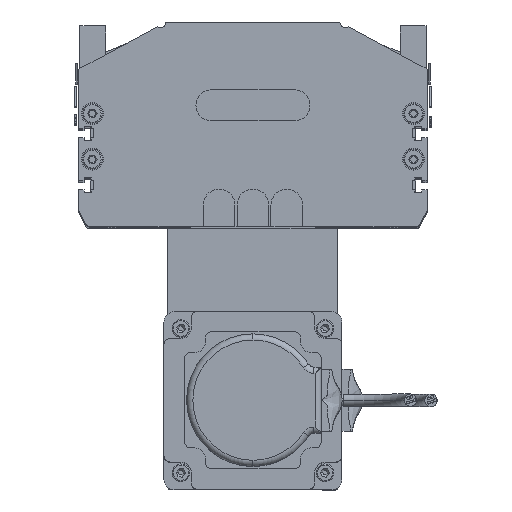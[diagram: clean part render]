
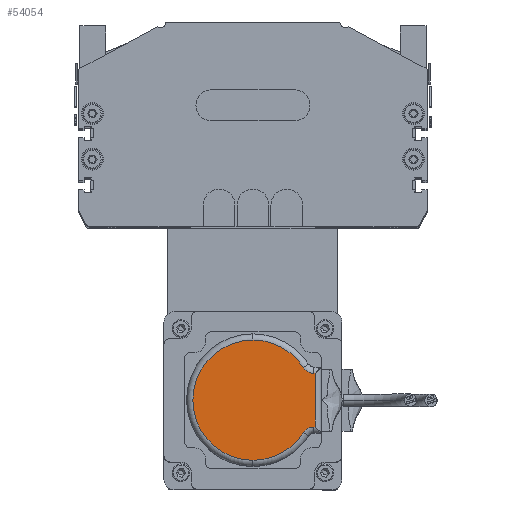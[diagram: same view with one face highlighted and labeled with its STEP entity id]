
A CAD part, top view. The second image highlights one B-rep face of the part: STEP entity #54054.
In plain terms, the highlighted planar face has unit normal (0, 0, 1).
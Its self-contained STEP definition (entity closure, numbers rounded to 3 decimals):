
#35334 = CIRCLE ( 'NONE', #35408, 6. ) ;
#35407 = CARTESIAN_POINT ( 'NONE',  ( 52., 62.394, 26. ) ) ;
#35408 = AXIS2_PLACEMENT_3D ( 'NONE', #35407, #35489, #35503 ) ;
#35489 = DIRECTION ( 'NONE',  ( 0., 0., 1. ) ) ;
#35503 = DIRECTION ( 'NONE',  ( 1., 0., 0. ) ) ;
#35627 = VECTOR ( 'NONE', #35679, 1000. ) ;
#35634 = LINE ( 'NONE', #35680, #35627 ) ;
#35679 = DIRECTION ( 'NONE',  ( 0., 1., 0. ) ) ;
#35680 = CARTESIAN_POINT ( 'NONE',  ( 46., 33., 26. ) ) ;
#35843 = DIRECTION ( 'NONE',  ( 0., 0., 1. ) ) ;
#35851 = DIRECTION ( 'NONE',  ( 0., -1., 0. ) ) ;
#35852 = CARTESIAN_POINT ( 'NONE',  ( 20., 33., 26. ) ) ;
#35861 = CARTESIAN_POINT ( 'NONE',  ( 46., 62.394, 26. ) ) ;
#35863 = VECTOR ( 'NONE', #35851, 1000. ) ;
#35877 = PLANE ( 'NONE',  #35965 ) ;
#35878 = CIRCLE ( 'NONE', #35920, 6. ) ;
#35880 = DIRECTION ( 'NONE',  ( 1., 0., 0. ) ) ;
#35887 = LINE ( 'NONE', #35852, #35863 ) ;
#35917 = DIRECTION ( 'NONE',  ( 1., 0., 0. ) ) ;
#35918 = DIRECTION ( 'NONE',  ( 0., 0., 1. ) ) ;
#35919 = CARTESIAN_POINT ( 'NONE',  ( 14., 62.394, 26. ) ) ;
#35920 = AXIS2_PLACEMENT_3D ( 'NONE', #35919, #35918, #35917 ) ;
#35926 = CARTESIAN_POINT ( 'NONE',  ( 20., 63., 26. ) ) ;
#35956 = CARTESIAN_POINT ( 'NONE',  ( 33., 33., 26. ) ) ;
#35965 = AXIS2_PLACEMENT_3D ( 'NONE', #35956, #35843, #35880 ) ;
#35979 = FACE_OUTER_BOUND ( 'NONE', #54128, .T. ) ;
#36006 = CARTESIAN_POINT ( 'NONE',  ( 17.257, 57.355, 26. ) ) ;
#36007 = CARTESIAN_POINT ( 'NONE',  ( 4., 33., 26. ) ) ;
#36022 = DIRECTION ( 'NONE',  ( 1., 0., 0. ) ) ;
#36054 = CARTESIAN_POINT ( 'NONE',  ( 33., 33., 26. ) ) ;
#36060 = DIRECTION ( 'NONE',  ( -1., 0., 0. ) ) ;
#36061 = VECTOR ( 'NONE', #36060, 1000. ) ;
#36078 = AXIS2_PLACEMENT_3D ( 'NONE', #36054, #36161, #36022 ) ;
#36080 = DIRECTION ( 'NONE',  ( 1., 0., 0. ) ) ;
#36081 = DIRECTION ( 'NONE',  ( 0., 0., 1. ) ) ;
#36082 = AXIS2_PLACEMENT_3D ( 'NONE', #36172, #36081, #36080 ) ;
#36083 = CARTESIAN_POINT ( 'NONE',  ( 46., 63., 26. ) ) ;
#36091 = CIRCLE ( 'NONE', #36078, 29. ) ;
#36115 = CARTESIAN_POINT ( 'NONE',  ( 17.5, 63., 26. ) ) ;
#36150 = LINE ( 'NONE', #36115, #36061 ) ;
#36161 = DIRECTION ( 'NONE',  ( 0., 0., 1. ) ) ;
#36163 = DIRECTION ( 'NONE',  ( 1., 0., 0. ) ) ;
#36164 = DIRECTION ( 'NONE',  ( 0., 0., 1. ) ) ;
#36165 = AXIS2_PLACEMENT_3D ( 'NONE', #36184, #36164, #36163 ) ;
#36171 = CARTESIAN_POINT ( 'NONE',  ( 62., 33., 26. ) ) ;
#36172 = CARTESIAN_POINT ( 'NONE',  ( 33., 33., 26. ) ) ;
#36173 = CIRCLE ( 'NONE', #36082, 29. ) ;
#36184 = CARTESIAN_POINT ( 'NONE',  ( 33., 33., 26. ) ) ;
#36192 = CIRCLE ( 'NONE', #36165, 29. ) ;
#36278 = CARTESIAN_POINT ( 'NONE',  ( 48.743, 57.355, 26. ) ) ;
#36302 = CARTESIAN_POINT ( 'NONE',  ( 20., 62.394, 26. ) ) ;
#54045 = ORIENTED_EDGE ( 'NONE', *, *, #54201, .T. ) ;
#54046 = ORIENTED_EDGE ( 'NONE', *, *, #54142, .T. ) ;
#54054 = ADVANCED_FACE ( 'NONE', ( #35979 ), #35877, .T. ) ;
#54059 = EDGE_CURVE ( 'NONE', #54205, #54280, #35878, .T. ) ;
#54126 = VERTEX_POINT ( 'NONE', #35926 ) ;
#54127 = ORIENTED_EDGE ( 'NONE', *, *, #54137, .F. ) ;
#54128 = EDGE_LOOP ( 'NONE', ( #54301, #54129, #54045, #54046, #54127, #54140, #54296, #54303 ) ) ;
#54129 = ORIENTED_EDGE ( 'NONE', *, *, #54152, .T. ) ;
#54130 = EDGE_CURVE ( 'NONE', #54126, #54280, #35887, .T. ) ;
#54131 = VERTEX_POINT ( 'NONE', #35861 ) ;
#54137 = EDGE_CURVE ( 'NONE', #54131, #54273, #35334, .T. ) ;
#54140 = ORIENTED_EDGE ( 'NONE', *, *, #54141, .T. ) ;
#54141 = EDGE_CURVE ( 'NONE', #54131, #54186, #35634, .T. ) ;
#54142 = EDGE_CURVE ( 'NONE', #54200, #54273, #36091, .T. ) ;
#54152 = EDGE_CURVE ( 'NONE', #54205, #54167, #36173, .T. ) ;
#54167 = VERTEX_POINT ( 'NONE', #36007 ) ;
#54186 = VERTEX_POINT ( 'NONE', #36083 ) ;
#54189 = EDGE_CURVE ( 'NONE', #54186, #54126, #36150, .T. ) ;
#54200 = VERTEX_POINT ( 'NONE', #36171 ) ;
#54201 = EDGE_CURVE ( 'NONE', #54167, #54200, #36192, .T. ) ;
#54205 = VERTEX_POINT ( 'NONE', #36006 ) ;
#54273 = VERTEX_POINT ( 'NONE', #36278 ) ;
#54280 = VERTEX_POINT ( 'NONE', #36302 ) ;
#54296 = ORIENTED_EDGE ( 'NONE', *, *, #54189, .T. ) ;
#54301 = ORIENTED_EDGE ( 'NONE', *, *, #54059, .F. ) ;
#54303 = ORIENTED_EDGE ( 'NONE', *, *, #54130, .T. ) ;
